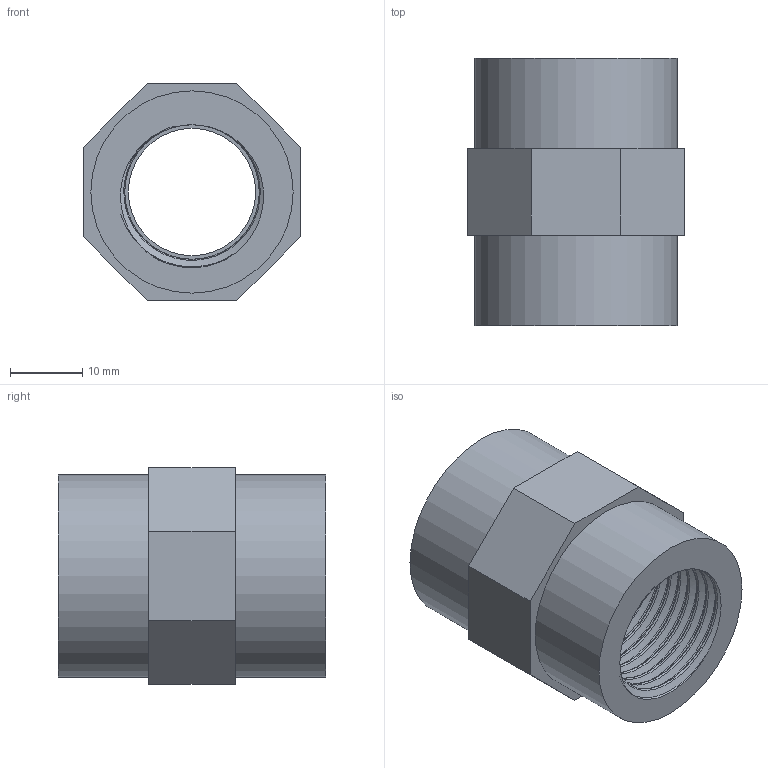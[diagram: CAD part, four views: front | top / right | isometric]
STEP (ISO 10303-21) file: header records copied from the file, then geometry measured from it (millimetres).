
FILE_DESCRIPTION(/* description */ ('PVC manicotto filettato BSP femmina'),/* implementation_level */ '2;1');
FILE_NAME(/* name */ 'C:\Users\POLYPIPE\Desktop\DATASET INVENTOR\LIBRERIA EFFAST\RACCORDI 3DxWEB\RER\3D_RERMAE\3D_RERMAE020B.stp',/* time_stamp */ '2018-01-19T16:36:57+01:00',/* author */ ('POLYPIPE'),/* organization */ ('Polypipe Italia'),/* preprocessor_version */ 'ST-DEVELOPER v16.1',/* originating_system */ 'Autodesk Inventor 2016',/* authorisation */ '');
FILE_SCHEMA (('CONFIG_CONTROL_DESIGN'));
Length unit declared in the file: millimetre
Products named in the file (1): 3D_RERMAE
Bounding box: 30 x 37 x 30 mm (x, y, z)
Volume: 13381.1 mm3; surface area: 7975.7 mm2
Topology: 1 solids, 1 shells, 27 faces, 63 edges, 42 vertices
Faces by surface type: plane 14, bspline 10, cylinder 3
Full cylindrical faces by diameter (mm): 17.631 x1, 28 x2
Entity records: 7430 total; most frequent: CARTESIAN_POINT 6874, ORIENTED_EDGE 120, DIRECTION 72, EDGE_CURVE 60, VERTEX_POINT 42, EDGE_LOOP 36, B_SPLINE_CURVE_WITH_KNOTS 30, FACE_OUTER_BOUND 27
